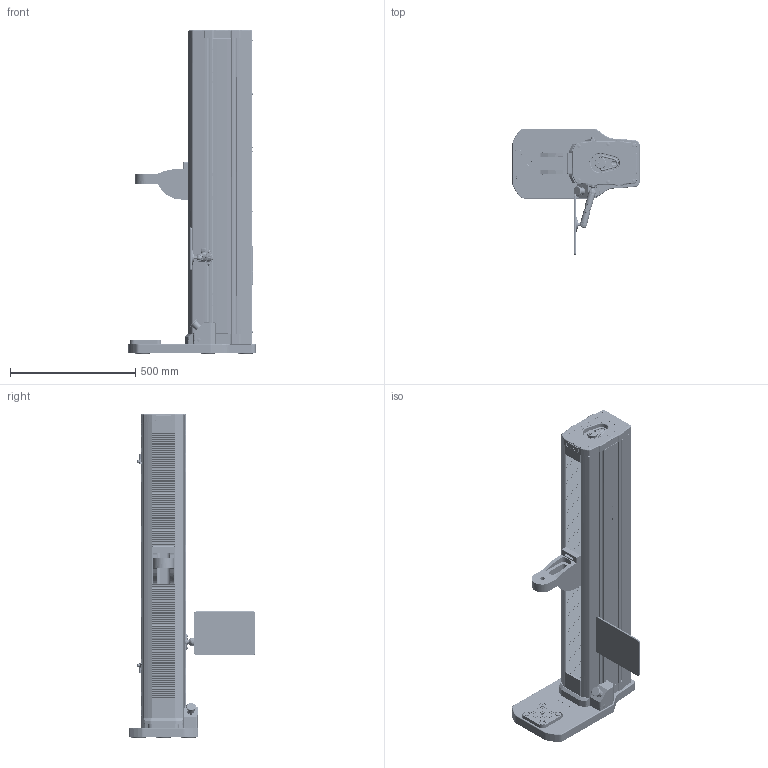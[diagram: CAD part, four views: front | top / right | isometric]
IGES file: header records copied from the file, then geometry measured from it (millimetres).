
Global section: file name: F755_IMT; native system: Autodesk RealDWG; preprocessor: Autodesk Translation Framework DWG producer (atf_dwg_producer); organization: unknown; date: 20210205.153445; units: inch
Bounding box: 508 x 506.7 x 1292.86 mm (x, y, z)
Volume: 57844069.8 mm3; surface area: 2576422.4 mm2
Topology: 5 solids, 12 shells, 11493 faces, 33321 edges, 22758 vertices
Faces by surface type: bspline 11493
